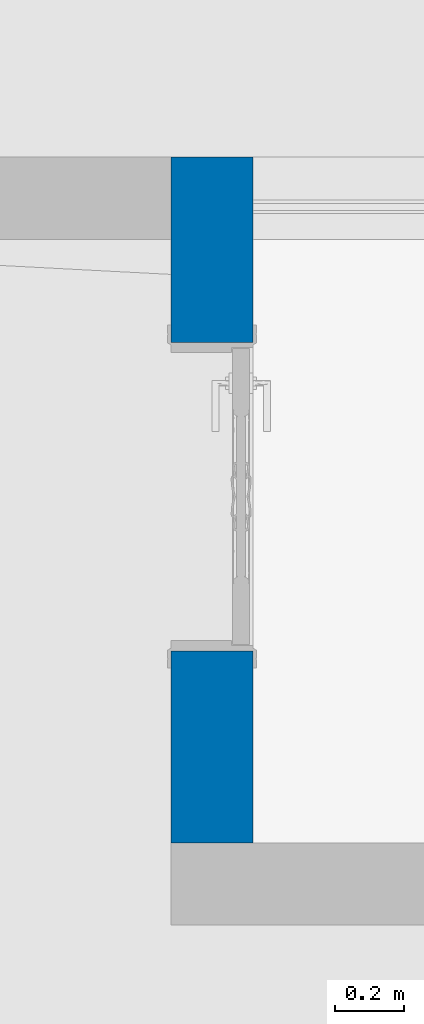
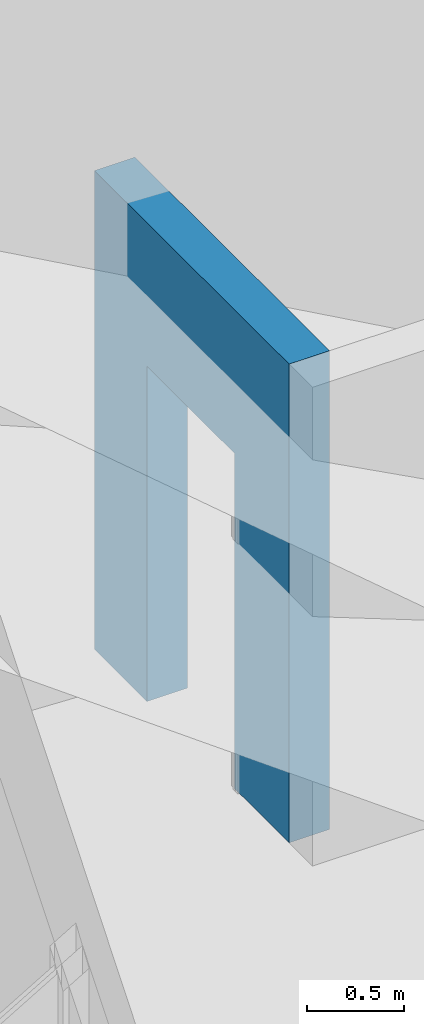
# One storey, part 67 of 82: 1 wall, 1 opening.
"""IFC2X3 building model written with IfcOpenShell, lengths in millimetres."""

import ifcopenshell
import ifcopenshell.guid

model = None  # the IFC model being written
_history = None  # IfcOwnerHistory: only IFC2X3 demands one
_inside = {}  # id of a spatial element -> (the spatial element, [elements in it])
_under = {}  # id of a project, library or spatial element -> (it, [spatial elements below it])
_declared = {}  # id of a project -> (the project, [libraries it declares])
_typed = {}  # id of a type object -> (the type object, [elements of that type])
_made_of = {}  # id of a material, layer set ... -> (it, [elements and type objects made of it])


def new_model(schema):
    """Start an empty IFC model of exactly this schema.

    Asked for "IFC4X3", IfcOpenShell would pick the latest addendum, in which some entities
    have other attributes; the version numbers below select the first issue.
    IFC2X3 requires an IfcOwnerHistory on every rooted entity: one is made here for all.
    """
    global model, _history
    if schema == "IFC4X3":
        model = ifcopenshell.file(schema_version=(4, 3, 0, 0))
    else:
        model = ifcopenshell.file(schema=schema)
    _inside.clear()
    _under.clear()
    _declared.clear()
    _typed.clear()
    _made_of.clear()
    _history = None
    if model.schema == "IFC2X3":
        org = make("IfcOrganization", Name="unknown")
        user = make(
            "IfcPersonAndOrganization",
            ThePerson=make("IfcPerson", FamilyName="unknown"),
            TheOrganization=org,
        )
        app = make(
            "IfcApplication",
            ApplicationDeveloper=org,
            Version="unknown",
            ApplicationFullName="unknown",
            ApplicationIdentifier="unknown",
        )
        _history = make(
            "IfcOwnerHistory",
            OwningUser=user,
            OwningApplication=app,
            ChangeAction="ADDED",
            CreationDate=0,
        )
    return model


def make(cls, **values):
    """One entity of the class cls with the attributes given. An attribute that is None is left unset."""
    return model.create_entity(
        cls, **{name: value for name, value in values.items() if value is not None}
    )


def entity(cls, *values):
    """Any entity or typed value of the class cls, its attributes in the order of the schema. None: left unset."""
    e = model.create_entity(cls)
    for i, value in enumerate(values):
        if value is not None:
            e[i] = value
    return e


def rooted(cls, **values):
    """An entity with a GlobalId (a new one), such as an element, a storey or a relation."""
    return make(cls, GlobalId=ifcopenshell.guid.new(), OwnerHistory=_history, **values)


def si_unit(unit_type, name, prefix=None):
    """IfcSIUnit, for example si_unit("LENGTHUNIT", "METRE", prefix="MILLI")."""
    return make("IfcSIUnit", UnitType=unit_type, Prefix=prefix, Name=name)


def converted_unit(unit_type, name, factor, base, dimensions=None, offset=None):
    """IfcConversionBasedUnit, such as the inch: factor (a typed value) times the base unit."""
    return make(
        "IfcConversionBasedUnit"
        if offset is None
        else "IfcConversionBasedUnitWithOffset",
        ConversionOffset=offset,
        Dimensions=None
        if dimensions is None
        else entity("IfcDimensionalExponents", *dimensions),
        UnitType=unit_type,
        Name=name,
        ConversionFactor=make(
            "IfcMeasureWithUnit", ValueComponent=factor, UnitComponent=base
        ),
    )


def derived_unit(unit_type, elements):
    """IfcDerivedUnit: a product of units, each with its exponent."""
    return make(
        "IfcDerivedUnit",
        Elements=[
            make("IfcDerivedUnitElement", Unit=unit, Exponent=power)
            for unit, power in elements
        ],
        UnitType=unit_type,
    )


def assignment(units):
    """IfcUnitAssignment: the units of a project."""
    return None if units is None else make("IfcUnitAssignment", Units=units)


def point(xyz):
    """IfcCartesianPoint."""
    return None if xyz is None else make("IfcCartesianPoint", Coordinates=xyz)


def direction(xyz):
    """IfcDirection."""
    return None if xyz is None else make("IfcDirection", DirectionRatios=xyz)


def frame(location, z_axis=None, x_axis=None):
    """IfcAxis2Placement3D, a coordinate frame: its origin and axes. An axis left out is left unset."""
    return make(
        "IfcAxis2Placement3D",
        Location=point(location),
        Axis=direction(z_axis),
        RefDirection=direction(x_axis),
    )


def frame_2d(location, x_axis=None):
    """IfcAxis2Placement2D, a coordinate frame in the plane: its origin and x axis."""
    return make(
        "IfcAxis2Placement2D", Location=point(location), RefDirection=direction(x_axis)
    )


def origin():
    """The frame at (0, 0, 0) with its axes left unset."""
    return frame((0.0, 0.0, 0.0))


def place(relative_to, where):
    """IfcLocalPlacement: puts the frame where relative to a parent placement (None: the world)."""
    return make(
        "IfcLocalPlacement", PlacementRelTo=relative_to, RelativePlacement=where
    )


def context(
    kind, dimensions, precision=None, world=None, true_north=None, identifier=None
):
    """IfcGeometricRepresentationContext, for example the 3D "Model" context."""
    return make(
        "IfcGeometricRepresentationContext",
        ContextIdentifier=identifier,
        ContextType=kind,
        CoordinateSpaceDimension=dimensions,
        Precision=precision,
        WorldCoordinateSystem=world,
        TrueNorth=true_north,
    )


def subcontext(parent, identifier, kind, view, scale=None):
    """IfcGeometricRepresentationSubContext, for example "Body" below "Model"."""
    return make(
        "IfcGeometricRepresentationSubContext",
        ContextIdentifier=identifier,
        ContextType=kind,
        ParentContext=parent,
        TargetScale=scale,
        TargetView=view,
    )


def project(units=None, contexts=None):
    """IfcProject with its units and contexts."""
    return rooted(
        "IfcProject",
        Name="project",
        RepresentationContexts=contexts,
        UnitsInContext=assignment(units),
    )


def spatial(cls, under=None, at=None, **own):
    """A site, building, storey or space (cls), placed at a placement, below another one or the project."""
    s = rooted(cls, ObjectPlacement=at, **own)
    if under is not None:
        _under.setdefault(under.id(), (under, []))[1].append(s)
    return s


def profile(cls, at=None, kind="AREA", **sizes):
    """A parametric profile (cls). Its sizes go by their IFC names, for example OverallWidth=200.0."""
    return make(cls, ProfileType=kind, Position=at, **sizes)


def rectangle(**sizes):
    """IfcRectangleProfileDef."""
    return profile("IfcRectangleProfileDef", **sizes)


def extrude(swept, where, along, depth):
    """IfcExtrudedAreaSolid: the profile swept, set in the frame where, extruded along a direction by depth."""
    return make(
        "IfcExtrudedAreaSolid",
        SweptArea=swept,
        Position=where,
        ExtrudedDirection=direction(along),
        Depth=depth,
    )


def shape(context_of_items, identifier, shape_type, items):
    """IfcShapeRepresentation: the items that make up one representation, for example the "Body"."""
    return make(
        "IfcShapeRepresentation",
        ContextOfItems=context_of_items,
        RepresentationIdentifier=identifier,
        RepresentationType=shape_type,
        Items=items,
    )


def material(Name=None, Category=None):
    """IfcMaterial."""
    return make("IfcMaterial", Name=Name, Category=Category)


def layer(
    of_material, thickness, ventilated=None, Name=None, Category=None, Priority=None
):
    """IfcMaterialLayer: one layer of a wall or slab, of a material (None: an air gap)."""
    return make(
        "IfcMaterialLayer",
        Material=of_material,
        LayerThickness=thickness,
        IsVentilated=ventilated,
        Name=Name,
        Category=Category,
        Priority=Priority,
    )


def layer_set(layers, Name=None):
    """IfcMaterialLayerSet."""
    return make("IfcMaterialLayerSet", MaterialLayers=layers, LayerSetName=Name)


def layer_usage(for_layer_set, set_direction, sense, offset, extent=None):
    """IfcMaterialLayerSetUsage: how a layer set lies in its element."""
    return make(
        "IfcMaterialLayerSetUsage",
        ForLayerSet=for_layer_set,
        LayerSetDirection=set_direction,
        DirectionSense=sense,
        OffsetFromReferenceLine=offset,
        ReferenceExtent=extent,
    )


def made_of(thing, what):
    """Note that an element or type object is made of a material, layer set ...; save() writes the relation."""
    if what is not None:
        _made_of.setdefault(what.id(), (what, []))[1].append(thing)
    return thing


def type_object(cls, material=None, **own):
    """A type object (cls), such as IfcWallType, which elements share."""
    return made_of(rooted(cls, **own), material)


def element(
    cls,
    number,
    at=None,
    inside=None,
    cuts=None,
    type_object=None,
    material=None,
    context=None,
    identifier="Body",
    shape_type=None,
    held_by="IfcProductDefinitionShape",
    body=None,
    shapes=None,
    **own,
):
    """One element of the class cls, such as IfcWall. Its Tag is "e" and its number.

    at: its placement. inside: the storey or other place that contains it. cuts: it is an
    opening in that element (IfcRelVoidsElement). A single representation is given by context,
    identifier, shape_type and body (its items); several are given by shapes. held_by: the class
    of the entity that holds the representations. save() writes the other relations.
    """
    e = rooted(cls, Tag="e%d" % number, ObjectPlacement=at, **own)
    if body is not None:
        shapes = [shape(context, identifier, shape_type, body)]
    if shapes is not None:
        e.Representation = make(held_by, Representations=shapes)
    if inside is not None:
        _inside.setdefault(inside.id(), (inside, []))[1].append(e)
    if cuts is not None:
        rooted(
            "IfcRelVoidsElement", RelatingBuildingElement=cuts, RelatedOpeningElement=e
        )
    if type_object is not None:
        _typed.setdefault(type_object.id(), (type_object, []))[1].append(e)
    return made_of(e, material)


def aggregate(whole, parts):
    """IfcRelAggregates: a whole, such as a stair, and the parts it consists of."""
    return rooted("IfcRelAggregates", RelatingObject=whole, RelatedObjects=parts)


def save(model, path):
    """Write the relations noted so far, then the file.

    IfcRelAggregates (storeys below a building ...), IfcRelContainedInSpatialStructure (elements
    in a storey), IfcRelDefinesByType, IfcRelAssociatesMaterial and IfcRelDeclares: one each for
    every whole, place, type object, material and project.
    """
    for whole, parts in _under.values():
        aggregate(whole, parts)
    for where, things in _inside.values():
        rooted(
            "IfcRelContainedInSpatialStructure",
            RelatedElements=things,
            RelatingStructure=where,
        )
    for kind, things in _typed.values():
        rooted("IfcRelDefinesByType", RelatedObjects=things, RelatingType=kind)
    for what, things in _made_of.values():
        rooted("IfcRelAssociatesMaterial", RelatedObjects=things, RelatingMaterial=what)
    for by, libraries in _declared.values():
        rooted("IfcRelDeclares", RelatingContext=by, RelatedDefinitions=libraries)
    model.write(path)


model = new_model("IFC2X3")

# Units and contexts
model_context = context("Model", 3, precision=0.01, world=origin(), true_north=direction((6.12303176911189e-17, 1.0)))
body_context = subcontext(model_context, "Body", "Model", "MODEL_VIEW")
ifc_project = project(units=[si_unit("LENGTHUNIT", "METRE", prefix="MILLI"), si_unit("AREAUNIT", "SQUARE_METRE"), si_unit("VOLUMEUNIT", "CUBIC_METRE"), converted_unit("PLANEANGLEUNIT", "DEGREE", entity("IfcRatioMeasure", 0.0174532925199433), si_unit("PLANEANGLEUNIT", "RADIAN"), dimensions=[0, 0, 0, 0, 0, 0, 0]), si_unit("MASSUNIT", "GRAM", prefix="KILO"), derived_unit("MASSDENSITYUNIT", [(si_unit("MASSUNIT", "GRAM", prefix="KILO"), 1), (si_unit("LENGTHUNIT", "METRE"), -3)]), si_unit("TIMEUNIT", "SECOND"), si_unit("FREQUENCYUNIT", "HERTZ"), si_unit("THERMODYNAMICTEMPERATUREUNIT", "DEGREE_CELSIUS"), derived_unit("THERMALTRANSMITTANCEUNIT", [(si_unit("MASSUNIT", "GRAM", prefix="KILO"), 1), (si_unit("THERMODYNAMICTEMPERATUREUNIT", "KELVIN"), -1), (si_unit("TIMEUNIT", "SECOND"), -3)]), derived_unit("VOLUMETRICFLOWRATEUNIT", [(si_unit("LENGTHUNIT", "METRE"), 3), (si_unit("TIMEUNIT", "SECOND"), -1)]), si_unit("ELECTRICCURRENTUNIT", "AMPERE"), si_unit("ELECTRICVOLTAGEUNIT", "VOLT"), si_unit("POWERUNIT", "WATT"), si_unit("FORCEUNIT", "NEWTON", prefix="KILO"), si_unit("ILLUMINANCEUNIT", "LUX"), si_unit("LUMINOUSFLUXUNIT", "LUMEN"), si_unit("LUMINOUSINTENSITYUNIT", "CANDELA"), derived_unit("USERDEFINED", [(si_unit("MASSUNIT", "GRAM", prefix="KILO"), -1), (si_unit("LENGTHUNIT", "METRE"), -2), (si_unit("TIMEUNIT", "SECOND"), 3), (si_unit("LUMINOUSFLUXUNIT", "LUMEN"), 1)]), derived_unit("LINEARVELOCITYUNIT", [(si_unit("LENGTHUNIT", "METRE"), 1), (si_unit("TIMEUNIT", "SECOND"), -1)]), si_unit("PRESSUREUNIT", "PASCAL"), derived_unit("USERDEFINED", [(si_unit("LENGTHUNIT", "METRE"), -2), (si_unit("MASSUNIT", "GRAM", prefix="KILO"), 1), (si_unit("TIMEUNIT", "SECOND"), -2)])], contexts=[model_context])

# Site, building, storey
site_placement = place(None, origin())
site = spatial("IfcSite", under=ifc_project, at=site_placement, Name="表面", CompositionType="ELEMENT")
building_placement = place(site_placement, origin())
building = spatial("IfcBuilding", under=site, at=building_placement, CompositionType="ELEMENT")
storey_placement = place(building_placement, origin())
storey = spatial("IfcBuildingStorey", under=building, at=storey_placement, Name="1F", CompositionType="ELEMENT", Elevation=0.0)

# Wall, opening
ifc_material_1 = material(Name="白色涂料")
ifc_layer_1 = layer(ifc_material_1, 10.0)
ifc_material_2 = material(Name="默认墙")
ifc_layer_2 = layer(ifc_material_2, 220.0)
ifc_layer_3 = layer(ifc_material_1, 10.0)
ifc_layer_set = layer_set([ifc_layer_1, ifc_layer_2, ifc_layer_3], Name="基本墙:粉刷墙240")
ifc_layer_usage = layer_usage(ifc_layer_set, "AXIS2", "NEGATIVE", 120.0)
wall_type = type_object("IfcWallType", Name="基本墙:粉刷墙240", PredefinedType="STANDARD", material=ifc_layer_set)
wall_placement = place(storey_placement, frame((-12030.2499126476, 3803.13157334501, 0.0), z_axis=(0.0, 0.0, 1.0), x_axis=(0.0, 1.0, 0.0)))
wall = element("IfcWallStandardCase", 1, at=wall_placement, inside=storey, type_object=wall_type, material=ifc_layer_usage, Name="基本墙:粉刷墙240", ObjectType="基本墙:粉刷墙240", context=body_context, shape_type="SweptSolid", body=[
    extrude(rectangle(XDim=2000.0, YDim=240.000000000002, at=frame_2d((1000.0, 9.80548975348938e-13), x_axis=(-1.0, 0.0))), origin(), (0.0, 0.0, 1.0), 3000.00000000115),
])
opening_placement = place(wall_placement, frame((1460.0, 120.0, 0.0)))
element("IfcOpeningElement", 2, at=opening_placement, cuts=wall, Name="装饰木门:M0921:1", ObjectType="Opening", context=body_context, shape_type="SweptSolid", body=[
    extrude(rectangle(XDim=2099.99999999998, YDim=900.0, at=frame_2d((1049.99999999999, 450.0), x_axis=(1.0, 0.0))), frame((0.0, 0.0, 0.0), z_axis=(0.0, -1.0, 0.0), x_axis=(0.0, 0.0, 1.0)), (0.0, 0.0, 1.0), 240.0),
])

save(model, "model.ifc")
